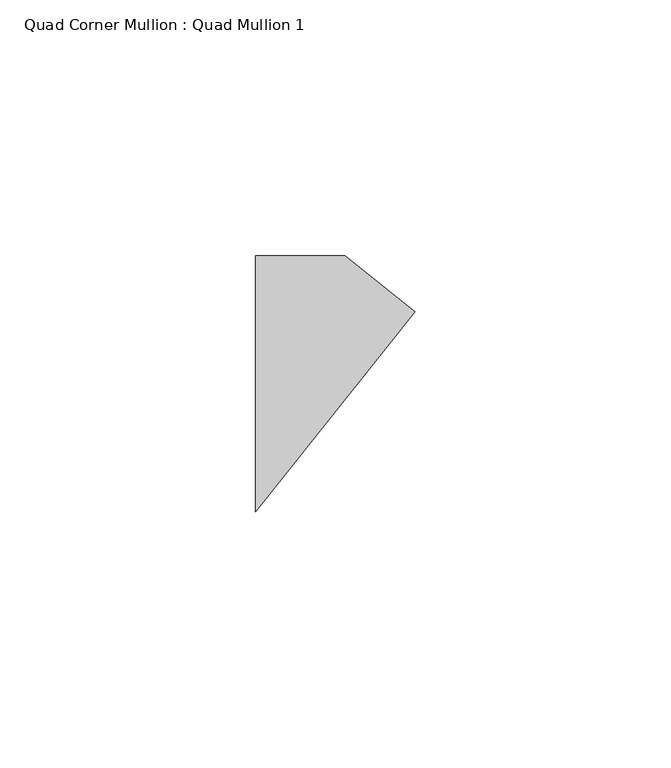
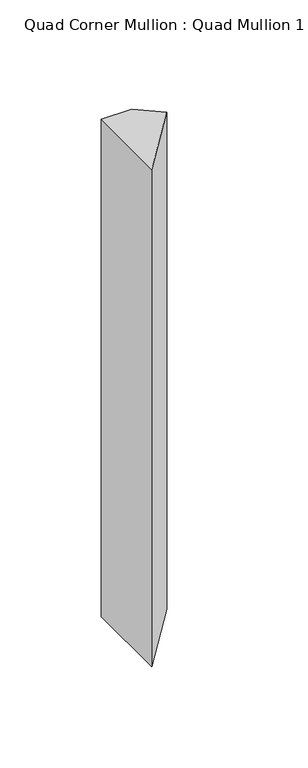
"""IFC4 building model written with IfcOpenShell, lengths in millimetres: member geometry, Quad Corner Mullion : Quad Mullion 1."""

from ifc_helpers import new_model, si_unit, frame, origin, place, context, project, spatial, polyline, outline, extrude, source, transform, mapped, element, save


def quad_corner_mullion_quad_mullion_1_1107a31d(model_context):
    return source(origin(), model_context, "Body", "SweptSolid", [
        extrude(outline(polyline([(22.4169637, 14.1035695), (-8.7424787, -25.0), (-8.7424787, 25.0), (8.7424787, 25.0), (22.4169637, 14.1035695)])), frame((0.0, 0.0, -300.0), z_axis=(0.0, 0.0, 1.0), x_axis=(1.0, 0.0, 0.0)), (0.0, 0.0, 1.0), 300.0),
    ])


if __name__ == "__main__":
    model = new_model("IFC4")
    model_context = context("Model", 3, world=origin())
    ifc_project = project(units=[si_unit("LENGTHUNIT", "METRE", prefix="MILLI")], contexts=[model_context])
    site = spatial("IfcSite", under=ifc_project)
    building = spatial("IfcBuilding", under=site)
    placement = place(None, origin())
    quad_corner_mullion_quad_mullion_1_shape = quad_corner_mullion_quad_mullion_1_1107a31d(model_context)
    element("IfcMember", 1, ObjectType="Quad Corner Mullion : Quad Mullion 1", at=placement, inside=building, context=model_context, shape_type="MappedRepresentation", body=[
        mapped(quad_corner_mullion_quad_mullion_1_shape, transform((0.0, 0.0, 0.0), x_axis=(1.0, 0.0, 0.0), y_axis=(0.0, 1.0, 0.0), z_axis=(0.0, 0.0, 1.0))),
    ])
    save(model, "model.ifc")
